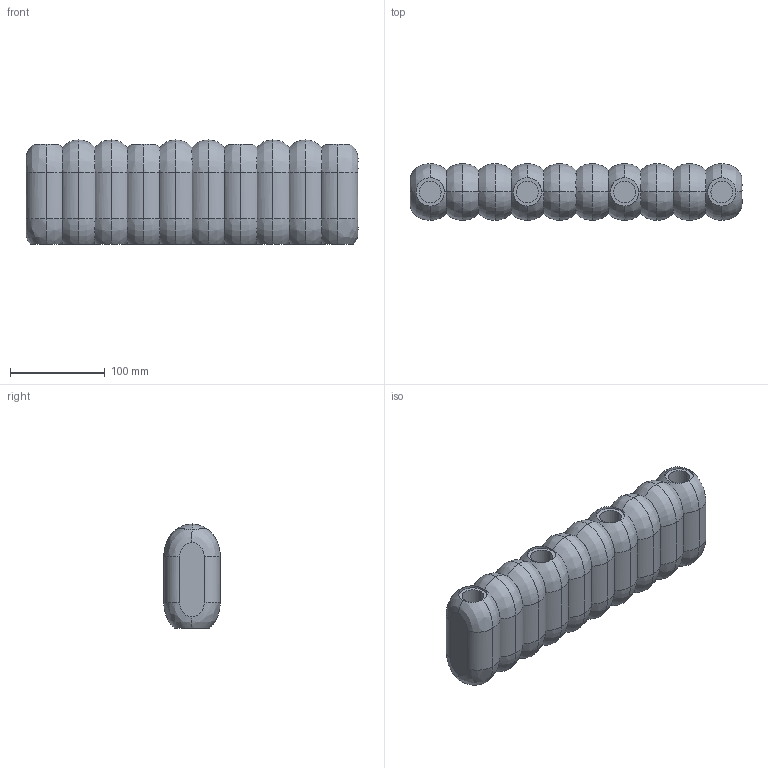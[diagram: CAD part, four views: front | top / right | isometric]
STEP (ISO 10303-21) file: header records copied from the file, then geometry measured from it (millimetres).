
FILE_DESCRIPTION(/* description */ (''),/* implementation_level */ '2;1');
FILE_NAME(/* name */ 'Tube Candle Holder Big',/* time_stamp */ '2022-07-07T15:10:49+02:00',/* author */ (''),/* organization */ (''),/* preprocessor_version */ 'ST-DEVELOPER v15',/* originating_system */ '',/* authorisation */ '');
FILE_SCHEMA (('AUTOMOTIVE_DESIGN'));
Length unit declared in the file: millimetre
Products named in the file (1): Document
Bounding box: 351.01 x 59.76 x 109.99 mm (x, y, z)
Surface area: 122239.4 mm2 (no closed solid volume)
Topology: 0 solids, 10 shells, 156 faces, 396 edges, 246 vertices
Faces by surface type: bspline 136, plane 20
Entity records: 9500 total; most frequent: CARTESIAN_POINT 7528, ORIENTED_EDGE 684, EDGE_CURVE 396, VERTEX_POINT 246, EDGE_LOOP 160, ADVANCED_FACE 156, FACE_OUTER_BOUND 156, B_SPLINE_CURVE_WITH_KNOTS 58
